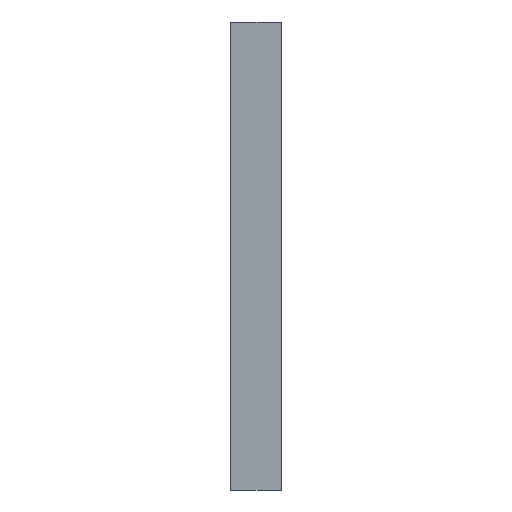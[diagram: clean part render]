
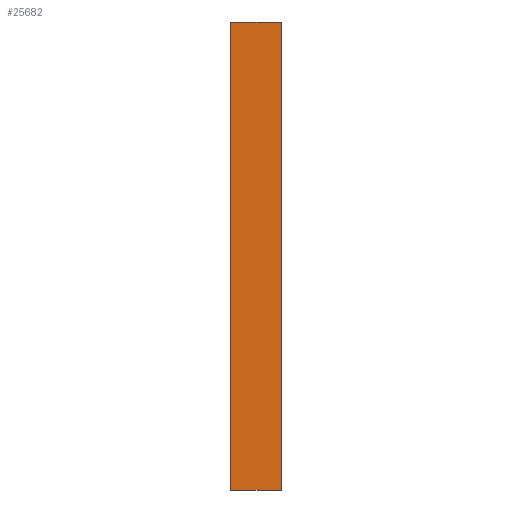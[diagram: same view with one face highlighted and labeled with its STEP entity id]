
A CAD part, left-side view. The second image highlights one B-rep face of the part: STEP entity #25682.
In plain terms, the highlighted planar face has unit normal (-1, 0, 0).
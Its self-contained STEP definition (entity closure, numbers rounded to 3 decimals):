
#823 = LINE ( 'NONE', #1431, #23926 ) ;
#1068 = AXIS2_PLACEMENT_3D ( 'NONE', #27313, #8028, #20693 ) ;
#1431 = CARTESIAN_POINT ( 'NONE',  ( -592.314, 0.2, -236.848 ) ) ;
#1934 = LINE ( 'NONE', #27200, #6170 ) ;
#4521 = ORIENTED_EDGE ( 'NONE', *, *, #11241, .T. ) ;
#6170 = VECTOR ( 'NONE', #11435, 1000. ) ;
#6365 = CARTESIAN_POINT ( 'NONE',  ( -592.314, 1341.378, 241.814 ) ) ;
#8028 = DIRECTION ( 'NONE',  ( -1., 0., 0. ) ) ;
#9251 = LINE ( 'NONE', #40377, #34577 ) ;
#11063 = EDGE_CURVE ( 'NONE', #19400, #16103, #35168, .T. ) ;
#11241 = EDGE_CURVE ( 'NONE', #18663, #38326, #1934, .T. ) ;
#11435 = DIRECTION ( 'NONE',  ( 0., -1., 0. ) ) ;
#12029 = EDGE_LOOP ( 'NONE', ( #20443, #12347, #4521, #26892 ) ) ;
#12347 = ORIENTED_EDGE ( 'NONE', *, *, #39556, .T. ) ;
#14048 = DIRECTION ( 'NONE',  ( 0., 0., -1. ) ) ;
#14647 = PLANE ( 'NONE',  #1068 ) ;
#16103 = VERTEX_POINT ( 'NONE', #25405 ) ;
#18188 = FACE_OUTER_BOUND ( 'NONE', #12029, .T. ) ;
#18663 = VERTEX_POINT ( 'NONE', #21190 ) ;
#19017 = DIRECTION ( 'NONE',  ( 0., -1., 0. ) ) ;
#19400 = VERTEX_POINT ( 'NONE', #25179 ) ;
#20443 = ORIENTED_EDGE ( 'NONE', *, *, #11063, .F. ) ;
#20693 = DIRECTION ( 'NONE',  ( 0., 0., 1. ) ) ;
#21190 = CARTESIAN_POINT ( 'NONE',  ( -592.314, 51.7, -236.848 ) ) ;
#21927 = DIRECTION ( 'NONE',  ( 0., 0., -1. ) ) ;
#23926 = VECTOR ( 'NONE', #14048, 1000. ) ;
#25179 = CARTESIAN_POINT ( 'NONE',  ( -592.314, 51.7, 241.814 ) ) ;
#25376 = VECTOR ( 'NONE', #19017, 1000. ) ;
#25405 = CARTESIAN_POINT ( 'NONE',  ( -592.314, 0.2, 241.814 ) ) ;
#25682 = ADVANCED_FACE ( 'NONE', ( #18188 ), #14647, .T. ) ;
#26569 = EDGE_CURVE ( 'NONE', #16103, #38326, #823, .T. ) ;
#26892 = ORIENTED_EDGE ( 'NONE', *, *, #26569, .F. ) ;
#27200 = CARTESIAN_POINT ( 'NONE',  ( -592.314, 1341.378, -236.848 ) ) ;
#27313 = CARTESIAN_POINT ( 'NONE',  ( -592.314, 1341.378, -236.848 ) ) ;
#34577 = VECTOR ( 'NONE', #21927, 1000. ) ;
#35168 = LINE ( 'NONE', #6365, #25376 ) ;
#37518 = CARTESIAN_POINT ( 'NONE',  ( -592.314, 0.2, -236.848 ) ) ;
#38326 = VERTEX_POINT ( 'NONE', #37518 ) ;
#39556 = EDGE_CURVE ( 'NONE', #19400, #18663, #9251, .T. ) ;
#40377 = CARTESIAN_POINT ( 'NONE',  ( -592.314, 51.7, -236.848 ) ) ;
